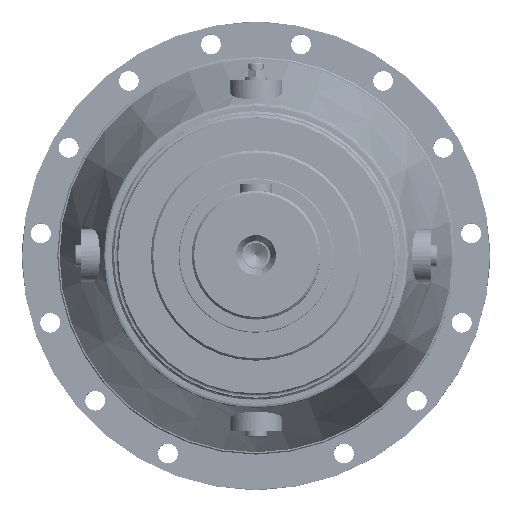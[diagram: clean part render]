
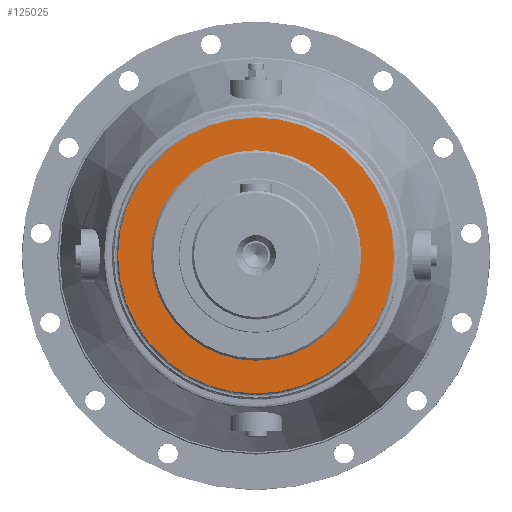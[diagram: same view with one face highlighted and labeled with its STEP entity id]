
A CAD part, top view. The second image highlights one B-rep face of the part: STEP entity #125025.
In plain terms, the highlighted planar face has unit normal (0, 0, 1).
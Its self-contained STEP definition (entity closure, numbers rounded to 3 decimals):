
#29453 = VERTEX_POINT ( 'NONE', #42551 ) ;
#29618 = VERTEX_POINT ( 'NONE', #40131 ) ;
#29624 = VERTEX_POINT ( 'NONE', #40301 ) ;
#29656 = VERTEX_POINT ( 'NONE', #40278 ) ;
#40131 = CARTESIAN_POINT ( 'NONE',  ( 0., -90., 175. ) ) ;
#40278 = CARTESIAN_POINT ( 'NONE',  ( 0., 90., 175. ) ) ;
#40301 = CARTESIAN_POINT ( 'NONE',  ( 0., 118., 175. ) ) ;
#42551 = CARTESIAN_POINT ( 'NONE',  ( 0., -118., 175. ) ) ;
#46511 = EDGE_CURVE ( 'NONE', #29618, #29656, #260865, .T. ) ;
#46663 = EDGE_CURVE ( 'NONE', #29453, #29624, #260909, .T. ) ;
#46672 = EDGE_CURVE ( 'NONE', #29624, #29453, #205455, .T. ) ;
#46706 = EDGE_CURVE ( 'NONE', #29656, #29618, #205467, .T. ) ;
#57575 = DIRECTION ( 'NONE',  ( 0., 0., -1. ) ) ;
#57593 = CARTESIAN_POINT ( 'NONE',  ( 0., 118., 175. ) ) ;
#57597 = DIRECTION ( 'NONE',  ( 0., 1., 0. ) ) ;
#57659 = PLANE ( 'NONE',  #62620 ) ;
#62620 = AXIS2_PLACEMENT_3D ( 'NONE', #57593, #57575, #57597 ) ;
#82331 = AXIS2_PLACEMENT_3D ( 'NONE', #105061, #105169, #105175 ) ;
#82550 = AXIS2_PLACEMENT_3D ( 'NONE', #107569, #107572, #107608 ) ;
#82615 = AXIS2_PLACEMENT_3D ( 'NONE', #107463, #107553, #107466 ) ;
#82704 = AXIS2_PLACEMENT_3D ( 'NONE', #106580, #106480, #106633 ) ;
#105061 = CARTESIAN_POINT ( 'NONE',  ( 0., 0., 175. ) ) ;
#105169 = DIRECTION ( 'NONE',  ( 0., 0., 1. ) ) ;
#105175 = DIRECTION ( 'NONE',  ( 0., 1., 0. ) ) ;
#106480 = DIRECTION ( 'NONE',  ( 0., 0., -1. ) ) ;
#106580 = CARTESIAN_POINT ( 'NONE',  ( 0., 0., 175. ) ) ;
#106633 = DIRECTION ( 'NONE',  ( 0., 1., 0. ) ) ;
#107463 = CARTESIAN_POINT ( 'NONE',  ( 0., 0., 175. ) ) ;
#107466 = DIRECTION ( 'NONE',  ( 0., 1., 0. ) ) ;
#107553 = DIRECTION ( 'NONE',  ( 0., 0., -1. ) ) ;
#107569 = CARTESIAN_POINT ( 'NONE',  ( 0., 0., 175. ) ) ;
#107572 = DIRECTION ( 'NONE',  ( 0., 0., 1. ) ) ;
#107608 = DIRECTION ( 'NONE',  ( 0., 1., 0. ) ) ;
#125025 = ADVANCED_FACE ( 'NONE', ( #208315, #208338 ), #57659, .F. ) ;
#137186 = EDGE_LOOP ( 'NONE', ( #256076, #256074 ) ) ;
#137323 = EDGE_LOOP ( 'NONE', ( #256190, #256221 ) ) ;
#205455 = CIRCLE ( 'NONE', #82615, 118. ) ;
#205467 = CIRCLE ( 'NONE', #82550, 90. ) ;
#208315 = FACE_BOUND ( 'NONE', #137323, .T. ) ;
#208338 = FACE_OUTER_BOUND ( 'NONE', #137186, .T. ) ;
#256074 = ORIENTED_EDGE ( 'NONE', *, *, #46672, .F. ) ;
#256076 = ORIENTED_EDGE ( 'NONE', *, *, #46663, .F. ) ;
#256190 = ORIENTED_EDGE ( 'NONE', *, *, #46706, .F. ) ;
#256221 = ORIENTED_EDGE ( 'NONE', *, *, #46511, .F. ) ;
#260865 = CIRCLE ( 'NONE', #82331, 90. ) ;
#260909 = CIRCLE ( 'NONE', #82704, 118. ) ;
